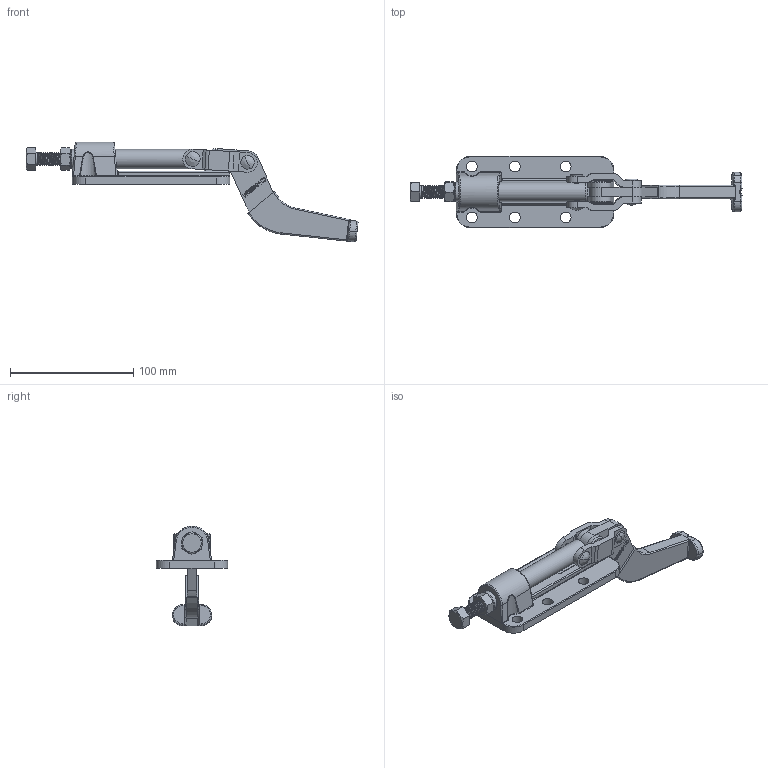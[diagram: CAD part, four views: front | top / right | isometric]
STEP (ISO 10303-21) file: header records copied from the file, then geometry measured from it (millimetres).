
FILE_DESCRIPTION(/* description */ ('STEP AP203'),/* implementation_level */ '2;1');
FILE_NAME(/* name */ 'D:\Vault_2016\Projekty\STRONA\Push-pull clamp\CH-36330M\CH-36330M_OTWARTY.stp',/* time_stamp */ '2019-01-11T11:46:07+01:00',/* author */ ('user'),/* organization */ ('Î¢ÈíÖÐ¹ú'),/* preprocessor_version */ 'ST-DEVELOPER v17.2',/* originating_system */ 'Autodesk Inventor 2019',/* authorisation */ '');
FILE_SCHEMA (('AUTOMOTIVE_DESIGN { 1 0 10303 214 3 1 1 }'));
Products named in the file (11): CH-36330M_OTWARTY; CH-36330M-01 BASE; CH-36330M-02 CREST STALK; M10 Nut; CH-36330M-07; CH-36330M-03 HANDLE; CH-36330M-04 CONNECTING-PLATE; CH-36330M-08; CH-36330M-05; CH-36330M-06; CH-SA-105015 SPINDLE SUPPLIED
Assembly tree (11 placements, depth 2):
  CH-36330M_OTWARTY
    CH-36330M-01 BASE
    CH-36330M-02 CREST STALK
    M10 Nut
    CH-36330M-07
    CH-36330M-03 HANDLE
    CH-36330M-04 CONNECTING-PLATE  x2
    CH-36330M-08
    CH-36330M-05
    CH-36330M-06
    CH-SA-105015 SPINDLE SUPPLIED
Bounding box: 269.83 x 58 x 81.22 mm (x, y, z)
Volume: 140764.1 mm3; surface area: 54649.5 mm2
Topology: 11 solids, 11 shells, 705 faces, 1930 edges, 1271 vertices
Faces by surface type: bspline 252, plane 245, cylinder 163, torus 30, cone 15
Full cylindrical faces by diameter (mm): 1.656 x1, 1.828 x1, 7.4 x2, 8 x12, 8.5 x27, 8.7 x6, 10 x30, 11 x2, 15.7 x2
Entity records: 49830 total; most frequent: CARTESIAN_POINT 33726, ORIENTED_EDGE 3726, DIRECTION 2470, EDGE_CURVE 1863, VERTEX_POINT 1231, LINE 888, VECTOR 888, AXIS2_PLACEMENT_3D 791
